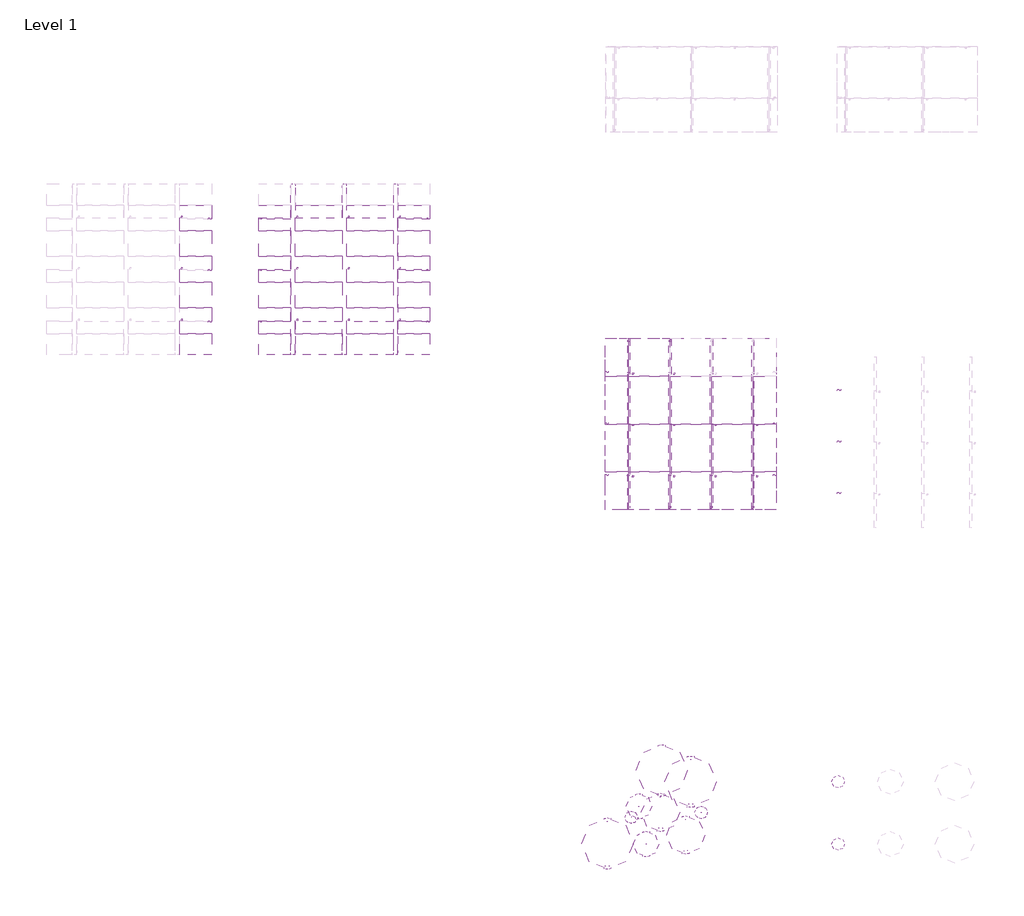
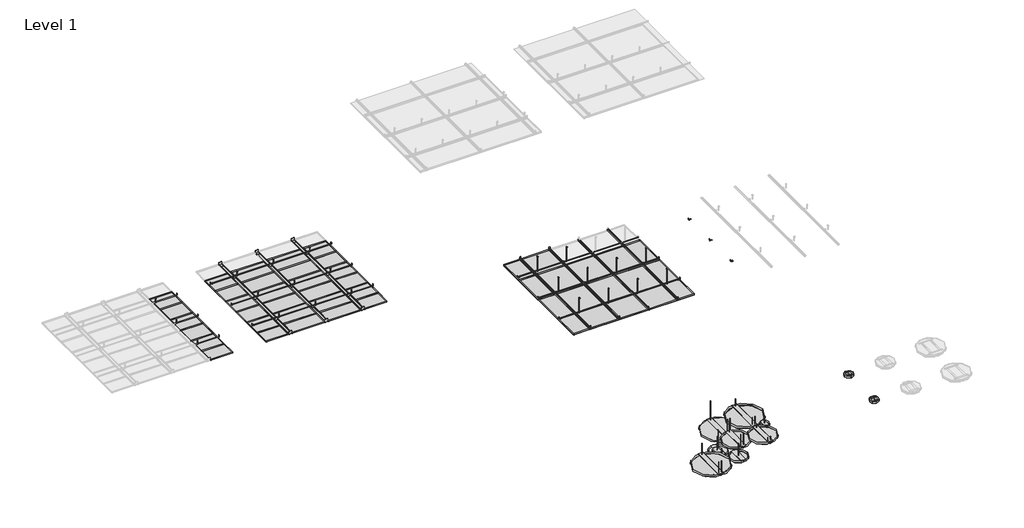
# One storey, part 9 of 32: 135 proxies.
"""IFC4 building model written with IfcOpenShell, lengths in millimetres."""

from ifc_helpers import new_model, si_unit, origin, place, context, project, spatial, transform, mapped, element, save
from components import generic_models_72de8b23, generic_models_cbd92ba2, generic_models_ce491251, generic_models_25fa5e78, generic_models_2a6b3d05, generic_models_c4ad3073, generic_models_f72345d6, generic_models_2887c913, generic_models_7cee0ba5, generic_models_2ff1d041, generic_models_96b5d85b, generic_models_a6ffa8e4, generic_models_93c67618, generic_models_9e18e937, generic_models_28f6a95c, generic_models_9ccf16c1, generic_models_2f172364, generic_models_67140d94, generic_models_d52b243d, generic_models_72923a4e, generic_models_1725dbb2, generic_models_24dc685e, generic_models_a7a96dfa, generic_models_45aca83d, generic_models_f1b6a3ca, generic_models_b58cbed9, generic_models_0fa353ae, generic_models_4925be76, generic_models_743fb40c, generic_models_13996165, generic_models_57b20986, generic_models_edce5612, generic_models_57176d63

model = new_model("IFC4")

# Units and contexts
model_context = context("Model", 3, world=origin())
ifc_project = project(units=[si_unit("LENGTHUNIT", "METRE", prefix="MILLI")], contexts=[model_context])

# Site, building, storey
site = spatial("IfcSite", under=ifc_project)
building = spatial("IfcBuilding", under=site)
storey = spatial("IfcBuildingStorey", under=building, Name="Level 1", Elevation=0.0)

# Proxies
placement = place(None, origin())
generic_models_shape = generic_models_72de8b23(model_context)
element("IfcBuildingElementProxy", 1, Name="durlum_LOOP_TYPE3 : durlum_LOOP_TYPE3", ObjectType="durlum_LOOP_TYPE3 : durlum_LOOP_TYPE3", at=placement, inside=storey, context=model_context, shape_type="MappedRepresentation", body=[
    mapped(generic_models_shape, transform((12154.4096894, -5061.5279399, 1700.0), x_axis=(1.0, 0.0, 0.0), y_axis=(0.0, 1.0, 0.0), z_axis=(0.0, 0.0, 1.0))),
])
generic_models_2_shape = generic_models_cbd92ba2(model_context)
element("IfcBuildingElementProxy", 2, Name="durlum_S5.7KS-BR : durlum_S5.7KS-BR", ObjectType="durlum_S5.7KS-BR : durlum_S5.7KS-BR", at=placement, inside=storey, context=model_context, shape_type="MappedRepresentation", body=[
    mapped(generic_models_2_shape, transform((4063.9252607, -1448.2303881, 1700.0), x_axis=(1.0, 0.0, 0.0), y_axis=(0.0, 1.0, 0.0), z_axis=(0.0, 0.0, 1.0))),
])
generic_models_3_shape = generic_models_ce491251(model_context)
element("IfcBuildingElementProxy", 3, Name="durlum_U1300 : durlum_U1300", ObjectType="durlum_U1300 : durlum_U1300", at=placement, inside=storey, context=model_context, shape_type="MappedRepresentation", body=[
    mapped(generic_models_3_shape, transform((263.9252607, -2648.2303881, 3149.4124682), x_axis=(-1.0, 0.0, 0.0), y_axis=(0.0, -1.0, 0.0), z_axis=(0.0, 0.0, 1.0))),
])
element("IfcBuildingElementProxy", 4, Name="durlum_U1300 : durlum_U1300", ObjectType="durlum_U1300 : durlum_U1300", at=placement, inside=storey, context=model_context, shape_type="MappedRepresentation", body=[
    mapped(generic_models_3_shape, transform((263.9252607, -248.2303881, 3149.4124682), x_axis=(-1.0, 0.0, 0.0), y_axis=(0.0, -1.0, 0.0), z_axis=(0.0, 0.0, 1.0))),
])
element("IfcBuildingElementProxy", 5, Name="durlum_U1300 : durlum_U1300", ObjectType="durlum_U1300 : durlum_U1300", at=placement, inside=storey, context=model_context, shape_type="MappedRepresentation", body=[
    mapped(generic_models_3_shape, transform((263.9252607, -1448.2303881, 3149.4124682), x_axis=(-1.0, 0.0, 0.0), y_axis=(0.0, -1.0, 0.0), z_axis=(0.0, 0.0, 1.0))),
])
element("IfcBuildingElementProxy", 6, Name="durlum_U1300 : durlum_U1300", ObjectType="durlum_U1300 : durlum_U1300", at=placement, inside=storey, context=model_context, shape_type="MappedRepresentation", body=[
    mapped(generic_models_3_shape, transform((2963.9252607, -1448.2303881, 3149.4124682), x_axis=(-1.0, 0.0, 0.0), y_axis=(0.0, -1.0, 0.0), z_axis=(0.0, 0.0, 1.0))),
])
element("IfcBuildingElementProxy", 7, Name="durlum_U1300 : durlum_U1300", ObjectType="durlum_U1300 : durlum_U1300", at=placement, inside=storey, context=model_context, shape_type="MappedRepresentation", body=[
    mapped(generic_models_3_shape, transform((2963.9252607, -2648.2303881, 3149.4124682), x_axis=(-1.0, 0.0, 0.0), y_axis=(0.0, -1.0, 0.0), z_axis=(0.0, 0.0, 1.0))),
])
element("IfcBuildingElementProxy", 8, Name="durlum_U1300 : durlum_U1300", ObjectType="durlum_U1300 : durlum_U1300", at=placement, inside=storey, context=model_context, shape_type="MappedRepresentation", body=[
    mapped(generic_models_3_shape, transform((2963.9252607, -248.2303881, 3149.4124682), x_axis=(-1.0, 0.0, 0.0), y_axis=(0.0, -1.0, 0.0), z_axis=(0.0, 0.0, 1.0))),
])
element("IfcBuildingElementProxy", 9, Name="durlum_U1300 : durlum_U1300", ObjectType="durlum_U1300 : durlum_U1300", at=placement, inside=storey, context=model_context, shape_type="MappedRepresentation", body=[
    mapped(generic_models_3_shape, transform((5363.9252607, -2648.2303881, 3149.4124682), x_axis=(-1.0, 0.0, 0.0), y_axis=(0.0, -1.0, 0.0), z_axis=(0.0, 0.0, 1.0))),
])
element("IfcBuildingElementProxy", 10, Name="durlum_U1300 : durlum_U1300", ObjectType="durlum_U1300 : durlum_U1300", at=placement, inside=storey, context=model_context, shape_type="MappedRepresentation", body=[
    mapped(generic_models_3_shape, transform((4163.9252607, -2648.2303881, 3149.4124682), x_axis=(-1.0, 0.0, 0.0), y_axis=(0.0, -1.0, 0.0), z_axis=(0.0, 0.0, 1.0))),
])
element("IfcBuildingElementProxy", 11, Name="durlum_U1300 : durlum_U1300", ObjectType="durlum_U1300 : durlum_U1300", at=placement, inside=storey, context=model_context, shape_type="MappedRepresentation", body=[
    mapped(generic_models_3_shape, transform((5363.9252607, -248.2303881, 3149.4124682), x_axis=(-1.0, 0.0, 0.0), y_axis=(0.0, -1.0, 0.0), z_axis=(0.0, 0.0, 1.0))),
])
element("IfcBuildingElementProxy", 12, Name="durlum_U1300 : durlum_U1300", ObjectType="durlum_U1300 : durlum_U1300", at=placement, inside=storey, context=model_context, shape_type="MappedRepresentation", body=[
    mapped(generic_models_3_shape, transform((4163.9252607, -248.2303881, 3149.4124682), x_axis=(-1.0, 0.0, 0.0), y_axis=(0.0, -1.0, 0.0), z_axis=(0.0, 0.0, 1.0))),
])
element("IfcBuildingElementProxy", 13, Name="durlum_U1300 : durlum_U1300", ObjectType="durlum_U1300 : durlum_U1300", at=placement, inside=storey, context=model_context, shape_type="MappedRepresentation", body=[
    mapped(generic_models_3_shape, transform((5363.9252607, -1448.2303881, 3149.4124682), x_axis=(-1.0, 0.0, 0.0), y_axis=(0.0, -1.0, 0.0), z_axis=(0.0, 0.0, 1.0))),
])
element("IfcBuildingElementProxy", 14, Name="durlum_U1300 : durlum_U1300", ObjectType="durlum_U1300 : durlum_U1300", at=placement, inside=storey, context=model_context, shape_type="MappedRepresentation", body=[
    mapped(generic_models_3_shape, transform((4163.9252607, -1448.2303881, 3149.4124682), x_axis=(-1.0, 0.0, 0.0), y_axis=(0.0, -1.0, 0.0), z_axis=(0.0, 0.0, 1.0))),
])
generic_models_4_shape = generic_models_25fa5e78(model_context)
element("IfcBuildingElementProxy", 15, Name="durlum_threaded_rod_M6 : durlum_threaded_rod_M6", ObjectType="durlum_threaded_rod_M6 : durlum_threaded_rod_M6", at=placement, inside=storey, context=model_context, shape_type="MappedRepresentation", body=[
    mapped(generic_models_4_shape, transform((10946.3913306, -13987.4247337, 3302.3925231), x_axis=(0.0, -1.0, 0.0), y_axis=(1.0, 0.0, 0.0), z_axis=(0.0, 0.0, 1.0))),
])
generic_models_5_shape = generic_models_2a6b3d05(model_context)
element("IfcBuildingElementProxy", 16, Name="durlum_threaded_rod_M6 : durlum_threaded_rod_M6", ObjectType="durlum_threaded_rod_M6 : durlum_threaded_rod_M6", at=placement, inside=storey, context=model_context, shape_type="MappedRepresentation", body=[
    mapped(generic_models_5_shape, transform((10765.227554, -14243.327903, 3520.8273878), x_axis=(0.0, -1.0, 0.0), y_axis=(1.0, 0.0, 0.0), z_axis=(0.0, 0.0, 1.0))),
])
generic_models_6_shape = generic_models_c4ad3073(model_context)
element("IfcBuildingElementProxy", 17, Name="durlum_threaded_rod_M6 : durlum_threaded_rod_M6", ObjectType="durlum_threaded_rod_M6 : durlum_threaded_rod_M6", at=placement, inside=storey, context=model_context, shape_type="MappedRepresentation", body=[
    mapped(generic_models_6_shape, transform((12398.3018075, -14131.6544888, 3822.694856), x_axis=(0.0, -1.0, 0.0), y_axis=(1.0, 0.0, 0.0), z_axis=(0.0, 0.0, 1.0))),
])
generic_models_7_shape = generic_models_f72345d6(model_context)
element("IfcBuildingElementProxy", 18, Name="durlum_threaded_rod_M6 : durlum_threaded_rod_M6", ObjectType="durlum_threaded_rod_M6 : durlum_threaded_rod_M6", at=placement, inside=storey, context=model_context, shape_type="MappedRepresentation", body=[
    mapped(generic_models_7_shape, transform((11111.9195563, -14870.1795855, 3593.45), x_axis=(0.0, -1.0, 0.0), y_axis=(1.0, 0.0, 0.0), z_axis=(0.0, 0.0, 1.0))),
])
generic_models_8_shape = generic_models_2887c913(model_context)
element("IfcBuildingElementProxy", 19, Name="durlum_threaded_rod_M6 : durlum_threaded_rod_M6", ObjectType="durlum_threaded_rod_M6 : durlum_threaded_rod_M6", at=placement, inside=storey, context=model_context, shape_type="MappedRepresentation", body=[
    mapped(generic_models_8_shape, transform((12037.0108094, -14291.1302382, 3892.1666578), x_axis=(0.0, -1.0, 0.0), y_axis=(1.0, 0.0, 0.0), z_axis=(0.0, 0.0, 1.0))),
])
element("IfcBuildingElementProxy", 20, Name="durlum_threaded_rod_M6 : durlum_threaded_rod_M6", ObjectType="durlum_threaded_rod_M6 : durlum_threaded_rod_M6", at=placement, inside=storey, context=model_context, shape_type="MappedRepresentation", body=[
    mapped(generic_models_8_shape, transform((11992.0108094, -15024.1302382, 3892.1666578), x_axis=(0.0, -1.0, 0.0), y_axis=(1.0, 0.0, 0.0), z_axis=(0.0, 0.0, 1.0))),
])
element("IfcBuildingElementProxy", 21, Name="durlum_threaded_rod_M6 : durlum_threaded_rod_M6", ObjectType="durlum_threaded_rod_M6 : durlum_threaded_rod_M6", at=placement, inside=storey, context=model_context, shape_type="MappedRepresentation", body=[
    mapped(generic_models_8_shape, transform((12082.0108094, -15024.1302382, 3892.1666578), x_axis=(0.0, -1.0, 0.0), y_axis=(1.0, 0.0, 0.0), z_axis=(0.0, 0.0, 1.0))),
])
generic_models_9_shape = generic_models_7cee0ba5(model_context)
element("IfcBuildingElementProxy", 22, Name="durlum_threaded_rod_M6 : durlum_threaded_rod_M6", ObjectType="durlum_threaded_rod_M6 : durlum_threaded_rod_M6", at=placement, inside=storey, context=model_context, shape_type="MappedRepresentation", body=[
    mapped(generic_models_9_shape, transform((11446.0516505, -13765.1544888, 3615.4824958), x_axis=(0.0, -1.0, 0.0), y_axis=(1.0, 0.0, 0.0), z_axis=(0.0, 0.0, 1.0))),
])
element("IfcBuildingElementProxy", 23, Name="durlum_threaded_rod_M6 : durlum_threaded_rod_M6", ObjectType="durlum_threaded_rod_M6 : durlum_threaded_rod_M6", at=placement, inside=storey, context=model_context, shape_type="MappedRepresentation", body=[
    mapped(generic_models_9_shape, transform((11401.0516505, -14498.1544888, 3615.4824958), x_axis=(0.0, -1.0, 0.0), y_axis=(1.0, 0.0, 0.0), z_axis=(0.0, 0.0, 1.0))),
])
element("IfcBuildingElementProxy", 24, Name="durlum_threaded_rod_M6 : durlum_threaded_rod_M6", ObjectType="durlum_threaded_rod_M6 : durlum_threaded_rod_M6", at=placement, inside=storey, context=model_context, shape_type="MappedRepresentation", body=[
    mapped(generic_models_9_shape, transform((11491.0516505, -14498.1544888, 3615.4824958), x_axis=(0.0, -1.0, 0.0), y_axis=(1.0, 0.0, 0.0), z_axis=(0.0, 0.0, 1.0))),
])
element("IfcBuildingElementProxy", 25, Name="durlum_threaded_rod_M6 : durlum_threaded_rod_M6", ObjectType="durlum_threaded_rod_M6 : durlum_threaded_rod_M6", at=placement, inside=storey, context=model_context, shape_type="MappedRepresentation", body=[
    mapped(generic_models_9_shape, transform((10208.5142283, -14336.8603154, 3615.4824958), x_axis=(0.0, -1.0, 0.0), y_axis=(1.0, 0.0, 0.0), z_axis=(0.0, 0.0, 1.0))),
])
element("IfcBuildingElementProxy", 26, Name="durlum_threaded_rod_M6 : durlum_threaded_rod_M6", ObjectType="durlum_threaded_rod_M6 : durlum_threaded_rod_M6", at=placement, inside=storey, context=model_context, shape_type="MappedRepresentation", body=[
    mapped(generic_models_9_shape, transform((10163.5142283, -15376.8603154, 3615.4824958), x_axis=(0.0, -1.0, 0.0), y_axis=(1.0, 0.0, 0.0), z_axis=(0.0, 0.0, 1.0))),
])
element("IfcBuildingElementProxy", 27, Name="durlum_threaded_rod_M6 : durlum_threaded_rod_M6", ObjectType="durlum_threaded_rod_M6 : durlum_threaded_rod_M6", at=placement, inside=storey, context=model_context, shape_type="MappedRepresentation", body=[
    mapped(generic_models_9_shape, transform((10253.5142283, -15376.8603154, 3615.4824958), x_axis=(0.0, -1.0, 0.0), y_axis=(1.0, 0.0, 0.0), z_axis=(0.0, 0.0, 1.0))),
])
generic_models_10_shape = generic_models_2ff1d041(model_context)
element("IfcBuildingElementProxy", 28, Name="durlum_threaded_rod_M6 : durlum_threaded_rod_M6", ObjectType="durlum_threaded_rod_M6 : durlum_threaded_rod_M6", at=placement, inside=storey, context=model_context, shape_type="MappedRepresentation", body=[
    mapped(generic_models_10_shape, transform((12150.4973052, -12892.8865556, 3751.2755524), x_axis=(0.0, -1.0, 0.0), y_axis=(1.0, 0.0, 0.0), z_axis=(0.0, 0.0, 1.0))),
])
element("IfcBuildingElementProxy", 29, Name="durlum_threaded_rod_M6 : durlum_threaded_rod_M6", ObjectType="durlum_threaded_rod_M6 : durlum_threaded_rod_M6", at=placement, inside=storey, context=model_context, shape_type="MappedRepresentation", body=[
    mapped(generic_models_10_shape, transform((12105.4973052, -13932.8865556, 3751.2755524), x_axis=(0.0, -1.0, 0.0), y_axis=(1.0, 0.0, 0.0), z_axis=(0.0, 0.0, 1.0))),
])
element("IfcBuildingElementProxy", 30, Name="durlum_threaded_rod_M6 : durlum_threaded_rod_M6", ObjectType="durlum_threaded_rod_M6 : durlum_threaded_rod_M6", at=placement, inside=storey, context=model_context, shape_type="MappedRepresentation", body=[
    mapped(generic_models_10_shape, transform((12195.4973052, -13932.8865556, 3751.2755524), x_axis=(0.0, -1.0, 0.0), y_axis=(1.0, 0.0, 0.0), z_axis=(0.0, 0.0, 1.0))),
])
generic_models_11_shape = generic_models_96b5d85b(model_context)
element("IfcBuildingElementProxy", 31, Name="durlum_U1300 : durlum_U1300", ObjectType="durlum_U1300 : durlum_U1300", at=placement, inside=storey, context=model_context, shape_type="MappedRepresentation", body=[
    mapped(generic_models_11_shape, transform((10805.4096894, -3861.5279399, 2753.4124682), x_axis=(1.0, 0.0, 0.0), y_axis=(0.0, 1.0, 0.0), z_axis=(0.0, 0.0, 1.0))),
])
element("IfcBuildingElementProxy", 32, Name="durlum_U1300 : durlum_U1300", ObjectType="durlum_U1300 : durlum_U1300", at=placement, inside=storey, context=model_context, shape_type="MappedRepresentation", body=[
    mapped(generic_models_11_shape, transform((11771.4096894, -3861.5279399, 2753.4124682), x_axis=(1.0, 0.0, 0.0), y_axis=(0.0, 1.0, 0.0), z_axis=(0.0, 0.0, 1.0))),
])
element("IfcBuildingElementProxy", 33, Name="durlum_U1300 : durlum_U1300", ObjectType="durlum_U1300 : durlum_U1300", at=placement, inside=storey, context=model_context, shape_type="MappedRepresentation", body=[
    mapped(generic_models_11_shape, transform((10805.4096894, -6261.5279399, 2753.4124682), x_axis=(1.0, 0.0, 0.0), y_axis=(0.0, 1.0, 0.0), z_axis=(0.0, 0.0, 1.0))),
])
element("IfcBuildingElementProxy", 34, Name="durlum_U1300 : durlum_U1300", ObjectType="durlum_U1300 : durlum_U1300", at=placement, inside=storey, context=model_context, shape_type="MappedRepresentation", body=[
    mapped(generic_models_11_shape, transform((13703.4096894, -6261.5279399, 2753.4124682), x_axis=(1.0, 0.0, 0.0), y_axis=(0.0, 1.0, 0.0), z_axis=(0.0, 0.0, 1.0))),
])
element("IfcBuildingElementProxy", 35, Name="durlum_U1300 : durlum_U1300", ObjectType="durlum_U1300 : durlum_U1300", at=placement, inside=storey, context=model_context, shape_type="MappedRepresentation", body=[
    mapped(generic_models_11_shape, transform((11771.4096894, -6261.5279399, 2753.4124682), x_axis=(1.0, 0.0, 0.0), y_axis=(0.0, 1.0, 0.0), z_axis=(0.0, 0.0, 1.0))),
])
element("IfcBuildingElementProxy", 36, Name="durlum_U1300 : durlum_U1300", ObjectType="durlum_U1300 : durlum_U1300", at=placement, inside=storey, context=model_context, shape_type="MappedRepresentation", body=[
    mapped(generic_models_11_shape, transform((12737.4096894, -6261.5279399, 2753.4124682), x_axis=(1.0, 0.0, 0.0), y_axis=(0.0, 1.0, 0.0), z_axis=(0.0, 0.0, 1.0))),
])
element("IfcBuildingElementProxy", 37, Name="durlum_U1300 : durlum_U1300", ObjectType="durlum_U1300 : durlum_U1300", at=placement, inside=storey, context=model_context, shape_type="MappedRepresentation", body=[
    mapped(generic_models_11_shape, transform((10805.4096894, -5061.5279399, 2753.4124682), x_axis=(1.0, 0.0, 0.0), y_axis=(0.0, 1.0, 0.0), z_axis=(0.0, 0.0, 1.0))),
])
element("IfcBuildingElementProxy", 38, Name="durlum_U1300 : durlum_U1300", ObjectType="durlum_U1300 : durlum_U1300", at=placement, inside=storey, context=model_context, shape_type="MappedRepresentation", body=[
    mapped(generic_models_11_shape, transform((13703.4096894, -5061.5279399, 2753.4124682), x_axis=(1.0, 0.0, 0.0), y_axis=(0.0, 1.0, 0.0), z_axis=(0.0, 0.0, 1.0))),
])
element("IfcBuildingElementProxy", 39, Name="durlum_U1300 : durlum_U1300", ObjectType="durlum_U1300 : durlum_U1300", at=placement, inside=storey, context=model_context, shape_type="MappedRepresentation", body=[
    mapped(generic_models_11_shape, transform((11771.4096894, -5061.5279399, 2753.4124682), x_axis=(1.0, 0.0, 0.0), y_axis=(0.0, 1.0, 0.0), z_axis=(0.0, 0.0, 1.0))),
])
element("IfcBuildingElementProxy", 40, Name="durlum_U1300 : durlum_U1300", ObjectType="durlum_U1300 : durlum_U1300", at=placement, inside=storey, context=model_context, shape_type="MappedRepresentation", body=[
    mapped(generic_models_11_shape, transform((12737.4096894, -5061.5279399, 2753.4124682), x_axis=(1.0, 0.0, 0.0), y_axis=(0.0, 1.0, 0.0), z_axis=(0.0, 0.0, 1.0))),
])
generic_models_12_shape = generic_models_a6ffa8e4(model_context)
element("IfcBuildingElementProxy", 41, Name="durlum_TOMEO-R-active : durlum_TOMEO-R-ACTIVE 300", ObjectType="durlum_TOMEO-R-active : durlum_TOMEO-R-ACTIVE 300", at=placement, inside=storey, context=model_context, shape_type="MappedRepresentation", body=[
    mapped(generic_models_12_shape, transform((15596.8016008, -13412.8865556, 3940.0), x_axis=(1.0, 0.0, 0.0), y_axis=(0.0, 1.0, 0.0), z_axis=(0.0, 0.0, 1.0))),
])
generic_models_13_shape = generic_models_93c67618(model_context)
element("IfcBuildingElementProxy", 42, Name="durlum_TOMEO-R-active : durlum_TOMEO-R-ACTIVE 300", ObjectType="durlum_TOMEO-R-active : durlum_TOMEO-R-ACTIVE 300", at=placement, inside=storey, context=model_context, shape_type="MappedRepresentation", body=[
    mapped(generic_models_13_shape, transform((15596.8016008, -14870.1795855, 3940.0), x_axis=(1.0, 0.0, 0.0), y_axis=(0.0, 1.0, 0.0), z_axis=(0.0, 0.0, 1.0))),
])
generic_models_14_shape = generic_models_9e18e937(model_context)
element("IfcBuildingElementProxy", 43, Name="durlum_U1042 : durlum_U1042", ObjectType="durlum_U1042 : durlum_U1042", at=placement, inside=storey, context=model_context, shape_type="MappedRepresentation", body=[
    mapped(generic_models_14_shape, transform((11671.4096894, -3061.5279399, 3475.0), x_axis=(1.0, 0.0, 0.0), y_axis=(0.0, 1.0, 0.0), z_axis=(0.0, 0.0, 1.0))),
])
element("IfcBuildingElementProxy", 44, Name="durlum_U1042 : durlum_U1042", ObjectType="durlum_U1042 : durlum_U1042", at=placement, inside=storey, context=model_context, shape_type="MappedRepresentation", body=[
    mapped(generic_models_14_shape, transform((11671.4096894, -7061.5279399, 3475.0), x_axis=(-1.0, 0.0, 0.0), y_axis=(0.0, -1.0, 0.0), z_axis=(0.0, 0.0, 1.0))),
])
element("IfcBuildingElementProxy", 45, Name="durlum_U1042 : durlum_U1042", ObjectType="durlum_U1042 : durlum_U1042", at=placement, inside=storey, context=model_context, shape_type="MappedRepresentation", body=[
    mapped(generic_models_14_shape, transform((12637.4096894, -7061.5279399, 3475.0), x_axis=(-1.0, 0.0, 0.0), y_axis=(0.0, -1.0, 0.0), z_axis=(0.0, 0.0, 1.0))),
])
element("IfcBuildingElementProxy", 46, Name="durlum_U1042 : durlum_U1042", ObjectType="durlum_U1042 : durlum_U1042", at=placement, inside=storey, context=model_context, shape_type="MappedRepresentation", body=[
    mapped(generic_models_14_shape, transform((10705.4096894, -7061.5279399, 3475.0), x_axis=(-1.0, 0.0, 0.0), y_axis=(0.0, -1.0, 0.0), z_axis=(0.0, 0.0, 1.0))),
])
element("IfcBuildingElementProxy", 47, Name="durlum_U1042 : durlum_U1042", ObjectType="durlum_U1042 : durlum_U1042", at=placement, inside=storey, context=model_context, shape_type="MappedRepresentation", body=[
    mapped(generic_models_14_shape, transform((10705.4096894, -3061.5279399, 3475.0), x_axis=(1.0, 0.0, 0.0), y_axis=(0.0, 1.0, 0.0), z_axis=(0.0, 0.0, 1.0))),
])
element("IfcBuildingElementProxy", 48, Name="durlum_U1042 : durlum_U1042", ObjectType="durlum_U1042 : durlum_U1042", at=placement, inside=storey, context=model_context, shape_type="MappedRepresentation", body=[
    mapped(generic_models_14_shape, transform((13603.4096894, -7061.5279399, 3475.0), x_axis=(-1.0, 0.0, 0.0), y_axis=(0.0, -1.0, 0.0), z_axis=(0.0, 0.0, 1.0))),
])
generic_models_15_shape = generic_models_28f6a95c(model_context)
element("IfcBuildingElementProxy", 49, Name="durlum_U1042 : durlum_U1042", ObjectType="durlum_U1042 : durlum_U1042", at=placement, inside=storey, context=model_context, shape_type="MappedRepresentation", body=[
    mapped(generic_models_15_shape, transform((2063.9252607, -263.2303881, 3906.0), x_axis=(0.0, -1.0, 0.0), y_axis=(1.0, 0.0, 0.0), z_axis=(0.0, 0.0, 1.0))),
])
element("IfcBuildingElementProxy", 50, Name="durlum_U1042 : durlum_U1042", ObjectType="durlum_U1042 : durlum_U1042", at=placement, inside=storey, context=model_context, shape_type="MappedRepresentation", body=[
    mapped(generic_models_15_shape, transform((2063.9252607, -1463.2303881, 3906.0), x_axis=(0.0, -1.0, 0.0), y_axis=(1.0, 0.0, 0.0), z_axis=(0.0, 0.0, 1.0))),
])
element("IfcBuildingElementProxy", 51, Name="durlum_U1042 : durlum_U1042", ObjectType="durlum_U1042 : durlum_U1042", at=placement, inside=storey, context=model_context, shape_type="MappedRepresentation", body=[
    mapped(generic_models_15_shape, transform((2063.9252607, -2663.2303881, 3906.0), x_axis=(0.0, -1.0, 0.0), y_axis=(1.0, 0.0, 0.0), z_axis=(0.0, 0.0, 1.0))),
])
element("IfcBuildingElementProxy", 52, Name="durlum_U1042 : durlum_U1042", ObjectType="durlum_U1042 : durlum_U1042", at=placement, inside=storey, context=model_context, shape_type="MappedRepresentation", body=[
    mapped(generic_models_15_shape, transform((10154.4096894, -5047.5279399, 3473.0), x_axis=(0.0, -1.0, 0.0), y_axis=(1.0, 0.0, 0.0), z_axis=(0.0, 0.0, 1.0))),
])
element("IfcBuildingElementProxy", 53, Name="durlum_U1042 : durlum_U1042", ObjectType="durlum_U1042 : durlum_U1042", at=placement, inside=storey, context=model_context, shape_type="MappedRepresentation", body=[
    mapped(generic_models_15_shape, transform((10154.4096894, -3847.5279399, 3473.0), x_axis=(0.0, -1.0, 0.0), y_axis=(1.0, 0.0, 0.0), z_axis=(0.0, 0.0, 1.0))),
])
element("IfcBuildingElementProxy", 54, Name="durlum_U1042 : durlum_U1042", ObjectType="durlum_U1042 : durlum_U1042", at=placement, inside=storey, context=model_context, shape_type="MappedRepresentation", body=[
    mapped(generic_models_15_shape, transform((10154.4096894, -6247.5279399, 3473.0), x_axis=(0.0, -1.0, 0.0), y_axis=(1.0, 0.0, 0.0), z_axis=(0.0, 0.0, 1.0))),
])
element("IfcBuildingElementProxy", 55, Name="durlum_U1042 : durlum_U1042", ObjectType="durlum_U1042 : durlum_U1042", at=placement, inside=storey, context=model_context, shape_type="MappedRepresentation", body=[
    mapped(generic_models_15_shape, transform((15574.6837261, -5470.0841723, 3850.0), x_axis=(0.0, -1.0, 0.0), y_axis=(1.0, 0.0, 0.0), z_axis=(0.0, 0.0, 1.0))),
])
element("IfcBuildingElementProxy", 56, Name="durlum_U1042 : durlum_U1042", ObjectType="durlum_U1042 : durlum_U1042", at=placement, inside=storey, context=model_context, shape_type="MappedRepresentation", body=[
    mapped(generic_models_15_shape, transform((15574.6837261, -4270.0841723, 3850.0), x_axis=(0.0, -1.0, 0.0), y_axis=(1.0, 0.0, 0.0), z_axis=(0.0, 0.0, 1.0))),
])
element("IfcBuildingElementProxy", 57, Name="durlum_U1042 : durlum_U1042", ObjectType="durlum_U1042 : durlum_U1042", at=placement, inside=storey, context=model_context, shape_type="MappedRepresentation", body=[
    mapped(generic_models_15_shape, transform((15574.6837261, -6670.0841723, 3850.0), x_axis=(0.0, -1.0, 0.0), y_axis=(1.0, 0.0, 0.0), z_axis=(0.0, 0.0, 1.0))),
])
element("IfcBuildingElementProxy", 58, Name="durlum_U1042 : durlum_U1042", ObjectType="durlum_U1042 : durlum_U1042", at=placement, inside=storey, context=model_context, shape_type="MappedRepresentation", body=[
    mapped(generic_models_14_shape, transform((963.9252607, -263.2303881, 3906.0), x_axis=(0.0, -1.0, 0.0), y_axis=(1.0, 0.0, 0.0), z_axis=(0.0, 0.0, 1.0))),
])
element("IfcBuildingElementProxy", 59, Name="durlum_U1042 : durlum_U1042", ObjectType="durlum_U1042 : durlum_U1042", at=placement, inside=storey, context=model_context, shape_type="MappedRepresentation", body=[
    mapped(generic_models_14_shape, transform((963.9252607, -1463.2303881, 3906.0), x_axis=(0.0, -1.0, 0.0), y_axis=(1.0, 0.0, 0.0), z_axis=(0.0, 0.0, 1.0))),
])
element("IfcBuildingElementProxy", 60, Name="durlum_U1042 : durlum_U1042", ObjectType="durlum_U1042 : durlum_U1042", at=placement, inside=storey, context=model_context, shape_type="MappedRepresentation", body=[
    mapped(generic_models_14_shape, transform((963.9252607, -2663.2303881, 3906.0), x_axis=(0.0, -1.0, 0.0), y_axis=(1.0, 0.0, 0.0), z_axis=(0.0, 0.0, 1.0))),
])
element("IfcBuildingElementProxy", 61, Name="durlum_U1042 : durlum_U1042", ObjectType="durlum_U1042 : durlum_U1042", at=placement, inside=storey, context=model_context, shape_type="MappedRepresentation", body=[
    mapped(generic_models_14_shape, transform((6063.9252607, -263.2303881, 3906.0), x_axis=(0.0, -1.0, 0.0), y_axis=(1.0, 0.0, 0.0), z_axis=(0.0, 0.0, 1.0))),
])
element("IfcBuildingElementProxy", 62, Name="durlum_U1042 : durlum_U1042", ObjectType="durlum_U1042 : durlum_U1042", at=placement, inside=storey, context=model_context, shape_type="MappedRepresentation", body=[
    mapped(generic_models_14_shape, transform((6063.9252607, -1463.2303881, 3906.0), x_axis=(0.0, -1.0, 0.0), y_axis=(1.0, 0.0, 0.0), z_axis=(0.0, 0.0, 1.0))),
])
element("IfcBuildingElementProxy", 63, Name="durlum_U1042 : durlum_U1042", ObjectType="durlum_U1042 : durlum_U1042", at=placement, inside=storey, context=model_context, shape_type="MappedRepresentation", body=[
    mapped(generic_models_14_shape, transform((6063.9252607, -2663.2303881, 3906.0), x_axis=(0.0, -1.0, 0.0), y_axis=(1.0, 0.0, 0.0), z_axis=(0.0, 0.0, 1.0))),
])
element("IfcBuildingElementProxy", 64, Name="durlum_U1042 : durlum_U1042", ObjectType="durlum_U1042 : durlum_U1042", at=placement, inside=storey, context=model_context, shape_type="MappedRepresentation", body=[
    mapped(generic_models_14_shape, transform((14154.4096894, -5047.5279399, 3473.0), x_axis=(0.0, -1.0, 0.0), y_axis=(1.0, 0.0, 0.0), z_axis=(0.0, 0.0, 1.0))),
])
element("IfcBuildingElementProxy", 65, Name="durlum_U1042 : durlum_U1042", ObjectType="durlum_U1042 : durlum_U1042", at=placement, inside=storey, context=model_context, shape_type="MappedRepresentation", body=[
    mapped(generic_models_14_shape, transform((14154.4096894, -6247.5279399, 3473.0), x_axis=(0.0, -1.0, 0.0), y_axis=(1.0, 0.0, 0.0), z_axis=(0.0, 0.0, 1.0))),
])
generic_models_16_shape = generic_models_9ccf16c1(model_context)
element("IfcBuildingElementProxy", 66, Name="durlum_U1093V : durlum_U1093V", ObjectType="durlum_U1093V : durlum_U1093V", at=placement, inside=storey, context=model_context, shape_type="MappedRepresentation", body=[
    mapped(generic_models_16_shape, transform((11671.4096894, -3863.0279399, 3465.0), x_axis=(-1.0, 0.0, 0.0), y_axis=(0.0, -1.0, 0.0), z_axis=(0.0, 0.0, 1.0))),
])
element("IfcBuildingElementProxy", 67, Name="durlum_U1093V : durlum_U1093V", ObjectType="durlum_U1093V : durlum_U1093V", at=placement, inside=storey, context=model_context, shape_type="MappedRepresentation", body=[
    mapped(generic_models_16_shape, transform((11671.4096894, -6263.0279399, 3465.0), x_axis=(-1.0, 0.0, 0.0), y_axis=(0.0, -1.0, 0.0), z_axis=(0.0, 0.0, 1.0))),
])
element("IfcBuildingElementProxy", 68, Name="durlum_U1093V : durlum_U1093V", ObjectType="durlum_U1093V : durlum_U1093V", at=placement, inside=storey, context=model_context, shape_type="MappedRepresentation", body=[
    mapped(generic_models_16_shape, transform((11671.4096894, -5063.0279399, 3465.0), x_axis=(-1.0, 0.0, 0.0), y_axis=(0.0, -1.0, 0.0), z_axis=(0.0, 0.0, 1.0))),
])
element("IfcBuildingElementProxy", 69, Name="durlum_U1093V : durlum_U1093V", ObjectType="durlum_U1093V : durlum_U1093V", at=placement, inside=storey, context=model_context, shape_type="MappedRepresentation", body=[
    mapped(generic_models_16_shape, transform((13603.4096894, -5063.0279399, 3465.0), x_axis=(-1.0, 0.0, 0.0), y_axis=(0.0, -1.0, 0.0), z_axis=(0.0, 0.0, 1.0))),
])
element("IfcBuildingElementProxy", 70, Name="durlum_U1093V : durlum_U1093V", ObjectType="durlum_U1093V : durlum_U1093V", at=placement, inside=storey, context=model_context, shape_type="MappedRepresentation", body=[
    mapped(generic_models_16_shape, transform((10705.4096894, -5063.0279399, 3465.0), x_axis=(-1.0, 0.0, 0.0), y_axis=(0.0, -1.0, 0.0), z_axis=(0.0, 0.0, 1.0))),
])
element("IfcBuildingElementProxy", 71, Name="durlum_U1093V : durlum_U1093V", ObjectType="durlum_U1093V : durlum_U1093V", at=placement, inside=storey, context=model_context, shape_type="MappedRepresentation", body=[
    mapped(generic_models_16_shape, transform((12637.4096894, -5063.0279399, 3465.0), x_axis=(-1.0, 0.0, 0.0), y_axis=(0.0, -1.0, 0.0), z_axis=(0.0, 0.0, 1.0))),
])
element("IfcBuildingElementProxy", 72, Name="durlum_U1093V : durlum_U1093V", ObjectType="durlum_U1093V : durlum_U1093V", at=placement, inside=storey, context=model_context, shape_type="MappedRepresentation", body=[
    mapped(generic_models_16_shape, transform((10705.4096894, -3863.0279399, 3465.0), x_axis=(-1.0, 0.0, 0.0), y_axis=(0.0, -1.0, 0.0), z_axis=(0.0, 0.0, 1.0))),
])
element("IfcBuildingElementProxy", 73, Name="durlum_U1093V : durlum_U1093V", ObjectType="durlum_U1093V : durlum_U1093V", at=placement, inside=storey, context=model_context, shape_type="MappedRepresentation", body=[
    mapped(generic_models_16_shape, transform((13603.4096894, -6263.0279399, 3465.0), x_axis=(-1.0, 0.0, 0.0), y_axis=(0.0, -1.0, 0.0), z_axis=(0.0, 0.0, 1.0))),
])
element("IfcBuildingElementProxy", 74, Name="durlum_U1093V : durlum_U1093V", ObjectType="durlum_U1093V : durlum_U1093V", at=placement, inside=storey, context=model_context, shape_type="MappedRepresentation", body=[
    mapped(generic_models_16_shape, transform((10705.4096894, -6263.0279399, 3465.0), x_axis=(-1.0, 0.0, 0.0), y_axis=(0.0, -1.0, 0.0), z_axis=(0.0, 0.0, 1.0))),
])
element("IfcBuildingElementProxy", 75, Name="durlum_U1093V : durlum_U1093V", ObjectType="durlum_U1093V : durlum_U1093V", at=placement, inside=storey, context=model_context, shape_type="MappedRepresentation", body=[
    mapped(generic_models_16_shape, transform((12637.4096894, -6263.0279399, 3465.0), x_axis=(-1.0, 0.0, 0.0), y_axis=(0.0, -1.0, 0.0), z_axis=(0.0, 0.0, 1.0))),
])
generic_models_17_shape = generic_models_2f172364(model_context)
element("IfcBuildingElementProxy", 76, Name="durlum_S5-100_panel : durlum_S5-100_panel_wall_width_cut", ObjectType="durlum_S5-100_panel : durlum_S5-100_panel_wall_width_cut", at=placement, inside=storey, context=model_context, shape_type="MappedRepresentation", body=[
    mapped(generic_models_17_shape, transform((4663.9252607, -3198.2303881, 3800.0), x_axis=(1.0, 0.0, 0.0), y_axis=(0.0, 1.0, 0.0), z_axis=(0.0, 0.0, 1.0))),
])
element("IfcBuildingElementProxy", 77, Name="durlum_S5-100_panel : durlum_S5-100_panel_wall_width_cut", ObjectType="durlum_S5-100_panel : durlum_S5-100_panel_wall_width_cut", at=placement, inside=storey, context=model_context, shape_type="MappedRepresentation", body=[
    mapped(generic_models_17_shape, transform((3463.9252607, -3198.2303881, 3800.0), x_axis=(1.0, 0.0, 0.0), y_axis=(0.0, 1.0, 0.0), z_axis=(0.0, 0.0, 1.0))),
])
generic_models_18_shape = generic_models_67140d94(model_context)
element("IfcBuildingElementProxy", 78, Name="durlum_S5-100_panel : durlum_S5-100_panel", ObjectType="durlum_S5-100_panel : durlum_S5-100_panel", at=placement, inside=storey, context=model_context, shape_type="MappedRepresentation", body=[
    mapped(generic_models_18_shape, transform((3463.9252607, -1448.2303881, 3800.0), x_axis=(1.0, 0.0, 0.0), y_axis=(0.0, 1.0, 0.0), z_axis=(0.0, 0.0, 1.0))),
])
element("IfcBuildingElementProxy", 79, Name="durlum_S5-100_panel : durlum_S5-100_panel", ObjectType="durlum_S5-100_panel : durlum_S5-100_panel", at=placement, inside=storey, context=model_context, shape_type="MappedRepresentation", body=[
    mapped(generic_models_18_shape, transform((4663.9252607, -1448.2303881, 3800.0), x_axis=(1.0, 0.0, 0.0), y_axis=(0.0, 1.0, 0.0), z_axis=(0.0, 0.0, 1.0))),
])
element("IfcBuildingElementProxy", 80, Name="durlum_S5-100_panel : durlum_S5-100_panel", ObjectType="durlum_S5-100_panel : durlum_S5-100_panel", at=placement, inside=storey, context=model_context, shape_type="MappedRepresentation", body=[
    mapped(generic_models_18_shape, transform((3463.9252607, -848.2303881, 3800.0), x_axis=(1.0, 0.0, 0.0), y_axis=(0.0, 1.0, 0.0), z_axis=(0.0, 0.0, 1.0))),
])
element("IfcBuildingElementProxy", 81, Name="durlum_S5-100_panel : durlum_S5-100_panel", ObjectType="durlum_S5-100_panel : durlum_S5-100_panel", at=placement, inside=storey, context=model_context, shape_type="MappedRepresentation", body=[
    mapped(generic_models_18_shape, transform((4663.9252607, -848.2303881, 3800.0), x_axis=(1.0, 0.0, 0.0), y_axis=(0.0, 1.0, 0.0), z_axis=(0.0, 0.0, 1.0))),
])
element("IfcBuildingElementProxy", 82, Name="durlum_S5-100_panel : durlum_S5-100_panel", ObjectType="durlum_S5-100_panel : durlum_S5-100_panel", at=placement, inside=storey, context=model_context, shape_type="MappedRepresentation", body=[
    mapped(generic_models_18_shape, transform((3463.9252607, -2648.2303881, 3800.0), x_axis=(1.0, 0.0, 0.0), y_axis=(0.0, 1.0, 0.0), z_axis=(0.0, 0.0, 1.0))),
])
element("IfcBuildingElementProxy", 83, Name="durlum_S5-100_panel : durlum_S5-100_panel", ObjectType="durlum_S5-100_panel : durlum_S5-100_panel", at=placement, inside=storey, context=model_context, shape_type="MappedRepresentation", body=[
    mapped(generic_models_18_shape, transform((4663.9252607, -2648.2303881, 3800.0), x_axis=(1.0, 0.0, 0.0), y_axis=(0.0, 1.0, 0.0), z_axis=(0.0, 0.0, 1.0))),
])
element("IfcBuildingElementProxy", 84, Name="durlum_S5-100_panel : durlum_S5-100_panel", ObjectType="durlum_S5-100_panel : durlum_S5-100_panel", at=placement, inside=storey, context=model_context, shape_type="MappedRepresentation", body=[
    mapped(generic_models_18_shape, transform((3463.9252607, -248.2303881, 3800.0), x_axis=(1.0, 0.0, 0.0), y_axis=(0.0, 1.0, 0.0), z_axis=(0.0, 0.0, 1.0))),
])
element("IfcBuildingElementProxy", 85, Name="durlum_S5-100_panel : durlum_S5-100_panel", ObjectType="durlum_S5-100_panel : durlum_S5-100_panel", at=placement, inside=storey, context=model_context, shape_type="MappedRepresentation", body=[
    mapped(generic_models_18_shape, transform((4663.9252607, -248.2303881, 3800.0), x_axis=(1.0, 0.0, 0.0), y_axis=(0.0, 1.0, 0.0), z_axis=(0.0, 0.0, 1.0))),
])
element("IfcBuildingElementProxy", 86, Name="durlum_S5-100_panel : durlum_S5-100_panel", ObjectType="durlum_S5-100_panel : durlum_S5-100_panel", at=placement, inside=storey, context=model_context, shape_type="MappedRepresentation", body=[
    mapped(generic_models_18_shape, transform((3463.9252607, -2048.2303881, 3800.0), x_axis=(1.0, 0.0, 0.0), y_axis=(0.0, 1.0, 0.0), z_axis=(0.0, 0.0, 1.0))),
])
element("IfcBuildingElementProxy", 87, Name="durlum_S5-100_panel : durlum_S5-100_panel", ObjectType="durlum_S5-100_panel : durlum_S5-100_panel", at=placement, inside=storey, context=model_context, shape_type="MappedRepresentation", body=[
    mapped(generic_models_18_shape, transform((4663.9252607, -2048.2303881, 3800.0), x_axis=(1.0, 0.0, 0.0), y_axis=(0.0, 1.0, 0.0), z_axis=(0.0, 0.0, 1.0))),
])
generic_models_19_shape = generic_models_d52b243d(model_context)
element("IfcBuildingElementProxy", 88, Name="durlum_S5-100_panel : durlum_S5-100_panel_wall_length_cut", ObjectType="durlum_S5-100_panel : durlum_S5-100_panel_wall_length_cut", at=placement, inside=storey, context=model_context, shape_type="MappedRepresentation", body=[
    mapped(generic_models_19_shape, transform((2437.4252607, -2048.2303881, 3800.0), x_axis=(1.0, 0.0, 0.0), y_axis=(0.0, 1.0, 0.0), z_axis=(0.0, 0.0, 1.0))),
])
element("IfcBuildingElementProxy", 89, Name="durlum_S5-100_panel : durlum_S5-100_panel_wall_length_cut", ObjectType="durlum_S5-100_panel : durlum_S5-100_panel_wall_length_cut", at=placement, inside=storey, context=model_context, shape_type="MappedRepresentation", body=[
    mapped(generic_models_19_shape, transform((5690.4252607, -2048.2303881, 3800.0), x_axis=(1.0, 0.0, 0.0), y_axis=(0.0, 1.0, 0.0), z_axis=(0.0, 0.0, 1.0))),
])
element("IfcBuildingElementProxy", 90, Name="durlum_S5-100_panel : durlum_S5-100_panel_wall_length_cut", ObjectType="durlum_S5-100_panel : durlum_S5-100_panel_wall_length_cut", at=placement, inside=storey, context=model_context, shape_type="MappedRepresentation", body=[
    mapped(generic_models_19_shape, transform((2437.4252607, -1448.2303881, 3800.0), x_axis=(1.0, 0.0, 0.0), y_axis=(0.0, 1.0, 0.0), z_axis=(0.0, 0.0, 1.0))),
])
element("IfcBuildingElementProxy", 91, Name="durlum_S5-100_panel : durlum_S5-100_panel_wall_length_cut", ObjectType="durlum_S5-100_panel : durlum_S5-100_panel_wall_length_cut", at=placement, inside=storey, context=model_context, shape_type="MappedRepresentation", body=[
    mapped(generic_models_19_shape, transform((5690.4252607, -1448.2303881, 3800.0), x_axis=(1.0, 0.0, 0.0), y_axis=(0.0, 1.0, 0.0), z_axis=(0.0, 0.0, 1.0))),
])
element("IfcBuildingElementProxy", 92, Name="durlum_S5-100_panel : durlum_S5-100_panel_wall_length_cut", ObjectType="durlum_S5-100_panel : durlum_S5-100_panel_wall_length_cut", at=placement, inside=storey, context=model_context, shape_type="MappedRepresentation", body=[
    mapped(generic_models_19_shape, transform((2437.4252607, -848.2303881, 3800.0), x_axis=(1.0, 0.0, 0.0), y_axis=(0.0, 1.0, 0.0), z_axis=(0.0, 0.0, 1.0))),
])
element("IfcBuildingElementProxy", 93, Name="durlum_S5-100_panel : durlum_S5-100_panel_wall_length_cut", ObjectType="durlum_S5-100_panel : durlum_S5-100_panel_wall_length_cut", at=placement, inside=storey, context=model_context, shape_type="MappedRepresentation", body=[
    mapped(generic_models_19_shape, transform((5690.4252607, -848.2303881, 3800.0), x_axis=(1.0, 0.0, 0.0), y_axis=(0.0, 1.0, 0.0), z_axis=(0.0, 0.0, 1.0))),
])
element("IfcBuildingElementProxy", 94, Name="durlum_S5-100_panel : durlum_S5-100_panel_wall_length_cut", ObjectType="durlum_S5-100_panel : durlum_S5-100_panel_wall_length_cut", at=placement, inside=storey, context=model_context, shape_type="MappedRepresentation", body=[
    mapped(generic_models_19_shape, transform((2437.4252607, -2648.2303881, 3800.0), x_axis=(1.0, 0.0, 0.0), y_axis=(0.0, 1.0, 0.0), z_axis=(0.0, 0.0, 1.0))),
])
element("IfcBuildingElementProxy", 95, Name="durlum_S5-100_panel : durlum_S5-100_panel_wall_length_cut", ObjectType="durlum_S5-100_panel : durlum_S5-100_panel_wall_length_cut", at=placement, inside=storey, context=model_context, shape_type="MappedRepresentation", body=[
    mapped(generic_models_19_shape, transform((5690.4252607, -2648.2303881, 3800.0), x_axis=(1.0, 0.0, 0.0), y_axis=(0.0, 1.0, 0.0), z_axis=(0.0, 0.0, 1.0))),
])
element("IfcBuildingElementProxy", 96, Name="durlum_S5-100_panel : durlum_S5-100_panel_wall_length_cut", ObjectType="durlum_S5-100_panel : durlum_S5-100_panel_wall_length_cut", at=placement, inside=storey, context=model_context, shape_type="MappedRepresentation", body=[
    mapped(generic_models_19_shape, transform((5690.4252607, -248.2303881, 3800.0), x_axis=(1.0, 0.0, 0.0), y_axis=(0.0, 1.0, 0.0), z_axis=(0.0, 0.0, 1.0))),
])
element("IfcBuildingElementProxy", 97, Name="durlum_S5-100_panel : durlum_S5-100_panel_wall_length_cut", ObjectType="durlum_S5-100_panel : durlum_S5-100_panel_wall_length_cut", at=placement, inside=storey, context=model_context, shape_type="MappedRepresentation", body=[
    mapped(generic_models_19_shape, transform((2437.4252607, -248.2303881, 3800.0), x_axis=(1.0, 0.0, 0.0), y_axis=(0.0, 1.0, 0.0), z_axis=(0.0, 0.0, 1.0))),
])
element("IfcBuildingElementProxy", 98, Name="durlum_S5-100_panel : durlum_S5-100_panel_wall_length_cut", ObjectType="durlum_S5-100_panel : durlum_S5-100_panel_wall_length_cut", at=placement, inside=storey, context=model_context, shape_type="MappedRepresentation", body=[
    mapped(generic_models_19_shape, transform((590.4252607, -2048.2303881, 3800.0), x_axis=(1.0, 0.0, 0.0), y_axis=(0.0, 1.0, 0.0), z_axis=(0.0, 0.0, 1.0))),
])
element("IfcBuildingElementProxy", 99, Name="durlum_S5-100_panel : durlum_S5-100_panel_wall_length_cut", ObjectType="durlum_S5-100_panel : durlum_S5-100_panel_wall_length_cut", at=placement, inside=storey, context=model_context, shape_type="MappedRepresentation", body=[
    mapped(generic_models_19_shape, transform((590.4252607, -1448.2303881, 3800.0), x_axis=(1.0, 0.0, 0.0), y_axis=(0.0, 1.0, 0.0), z_axis=(0.0, 0.0, 1.0))),
])
element("IfcBuildingElementProxy", 100, Name="durlum_S5-100_panel : durlum_S5-100_panel_wall_length_cut", ObjectType="durlum_S5-100_panel : durlum_S5-100_panel_wall_length_cut", at=placement, inside=storey, context=model_context, shape_type="MappedRepresentation", body=[
    mapped(generic_models_19_shape, transform((590.4252607, -848.2303881, 3800.0), x_axis=(1.0, 0.0, 0.0), y_axis=(0.0, 1.0, 0.0), z_axis=(0.0, 0.0, 1.0))),
])
element("IfcBuildingElementProxy", 101, Name="durlum_S5-100_panel : durlum_S5-100_panel_wall_length_cut", ObjectType="durlum_S5-100_panel : durlum_S5-100_panel_wall_length_cut", at=placement, inside=storey, context=model_context, shape_type="MappedRepresentation", body=[
    mapped(generic_models_19_shape, transform((590.4252607, -2648.2303881, 3800.0), x_axis=(1.0, 0.0, 0.0), y_axis=(0.0, 1.0, 0.0), z_axis=(0.0, 0.0, 1.0))),
])
element("IfcBuildingElementProxy", 102, Name="durlum_S5-100_panel : durlum_S5-100_panel_wall_length_cut", ObjectType="durlum_S5-100_panel : durlum_S5-100_panel_wall_length_cut", at=placement, inside=storey, context=model_context, shape_type="MappedRepresentation", body=[
    mapped(generic_models_19_shape, transform((590.4252607, -248.2303881, 3800.0), x_axis=(1.0, 0.0, 0.0), y_axis=(0.0, 1.0, 0.0), z_axis=(0.0, 0.0, 1.0))),
])
generic_models_20_shape = generic_models_72923a4e(model_context)
element("IfcBuildingElementProxy", 103, Name="durlum_S5-100_panel : durlum_S5-100_panel_wall_corner", ObjectType="durlum_S5-100_panel : durlum_S5-100_panel_wall_corner", at=placement, inside=storey, context=model_context, shape_type="MappedRepresentation", body=[
    mapped(generic_models_20_shape, transform((2437.4252607, -3198.2303881, 3800.0), x_axis=(1.0, 0.0, 0.0), y_axis=(0.0, 1.0, 0.0), z_axis=(0.0, 0.0, 1.0))),
])
element("IfcBuildingElementProxy", 104, Name="durlum_S5-100_panel : durlum_S5-100_panel_wall_corner", ObjectType="durlum_S5-100_panel : durlum_S5-100_panel_wall_corner", at=placement, inside=storey, context=model_context, shape_type="MappedRepresentation", body=[
    mapped(generic_models_20_shape, transform((5690.4252607, -3198.2303881, 3800.0), x_axis=(1.0, 0.0, 0.0), y_axis=(0.0, 1.0, 0.0), z_axis=(0.0, 0.0, 1.0))),
])
element("IfcBuildingElementProxy", 105, Name="durlum_S5-100_panel : durlum_S5-100_panel_wall_corner", ObjectType="durlum_S5-100_panel : durlum_S5-100_panel_wall_corner", at=placement, inside=storey, context=model_context, shape_type="MappedRepresentation", body=[
    mapped(generic_models_20_shape, transform((590.4252607, -3198.2303881, 3800.0), x_axis=(1.0, 0.0, 0.0), y_axis=(0.0, 1.0, 0.0), z_axis=(0.0, 0.0, 1.0))),
])
generic_models_21_shape = generic_models_1725dbb2(model_context)
element("IfcBuildingElementProxy", 106, Name="durlum_TOMEO-R : durlum_TOMEO-R 600 RG-L30 TR", ObjectType="durlum_TOMEO-R : durlum_TOMEO-R 600 RG-L30 TR", at=placement, inside=storey, context=model_context, shape_type="MappedRepresentation", body=[
    mapped(generic_models_21_shape, transform((10946.3913306, -13987.4247337, 3242.3925231), x_axis=(1.0, 0.0, 0.0), y_axis=(0.0, 1.0, 0.0), z_axis=(0.0, 0.0, 1.0))),
])
generic_models_22_shape = generic_models_24dc685e(model_context)
element("IfcBuildingElementProxy", 107, Name="durlum_TOMEO-R : durlum_TOMEO-R 300 WS", ObjectType="durlum_TOMEO-R : durlum_TOMEO-R 300 WS", at=placement, inside=storey, context=model_context, shape_type="MappedRepresentation", body=[
    mapped(generic_models_22_shape, transform((10765.227554, -14243.327903, 3460.8273878), x_axis=(1.0, 0.0, 0.0), y_axis=(0.0, 1.0, 0.0), z_axis=(0.0, 0.0, 1.0))),
])
element("IfcBuildingElementProxy", 108, Name="durlum_TOMEO-R : durlum_TOMEO-R 300 RG-L30 TR", ObjectType="durlum_TOMEO-R : durlum_TOMEO-R 300 RG-L30 TR", at=placement, inside=storey, context=model_context, shape_type="MappedRepresentation", body=[
    mapped(generic_models_22_shape, transform((12398.3018075, -14131.6544888, 3762.694856), x_axis=(1.0, 0.0, 0.0), y_axis=(0.0, 1.0, 0.0), z_axis=(0.0, 0.0, 1.0))),
])
generic_models_23_shape = generic_models_a7a96dfa(model_context)
element("IfcBuildingElementProxy", 109, Name="durlum_TOMEO-R : durlum_TOMEO-R 600 WS", ObjectType="durlum_TOMEO-R : durlum_TOMEO-R 600 WS", at=placement, inside=storey, context=model_context, shape_type="MappedRepresentation", body=[
    mapped(generic_models_23_shape, transform((11111.9195563, -14870.1795855, 3533.45), x_axis=(1.0, 0.0, 0.0), y_axis=(0.0, 1.0, 0.0), z_axis=(0.0, 0.0, 1.0))),
])
generic_models_24_shape = generic_models_45aca83d(model_context)
element("IfcBuildingElementProxy", 110, Name="durlum_TOMEO-R : durlum_TOMEO-R 900 RG-L30 TR", ObjectType="durlum_TOMEO-R : durlum_TOMEO-R 900 RG-L30 TR", at=placement, inside=storey, context=model_context, shape_type="MappedRepresentation", body=[
    mapped(generic_models_24_shape, transform((12037.0108094, -14657.6302382, 3832.1666578), x_axis=(1.0, 0.0, 0.0), y_axis=(0.0, 1.0, 0.0), z_axis=(0.0, 0.0, 1.0))),
])
generic_models_25_shape = generic_models_f1b6a3ca(model_context)
element("IfcBuildingElementProxy", 111, Name="durlum_TOMEO-R : durlum_TOMEO-R 900 WS", ObjectType="durlum_TOMEO-R : durlum_TOMEO-R 900 WS", at=placement, inside=storey, context=model_context, shape_type="MappedRepresentation", body=[
    mapped(generic_models_25_shape, transform((11446.0516505, -14131.6544888, 3555.4824958), x_axis=(1.0, 0.0, 0.0), y_axis=(0.0, 1.0, 0.0), z_axis=(0.0, 0.0, 1.0))),
])
generic_models_26_shape = generic_models_b58cbed9(model_context)
element("IfcBuildingElementProxy", 112, Name="durlum_TOMEO-R : durlum_TOMEO-R 1200 RG-L30 TR", ObjectType="durlum_TOMEO-R : durlum_TOMEO-R 1200 RG-L30 TR", at=placement, inside=storey, context=model_context, shape_type="MappedRepresentation", body=[
    mapped(generic_models_26_shape, transform((11476.998492, -13150.0751883, 3287.0005101), x_axis=(1.0, 0.0, 0.0), y_axis=(0.0, 1.0, 0.0), z_axis=(0.0, 0.0, 1.0))),
])
generic_models_27_shape = generic_models_0fa353ae(model_context)
element("IfcBuildingElementProxy", 113, Name="durlum_TOMEO-R : durlum_TOMEO-R 1200 WS", ObjectType="durlum_TOMEO-R : durlum_TOMEO-R 1200 WS", at=placement, inside=storey, context=model_context, shape_type="MappedRepresentation", body=[
    mapped(generic_models_27_shape, transform((12150.4973052, -13412.8865556, 3691.2755524), x_axis=(1.0, 0.0, 0.0), y_axis=(0.0, 1.0, 0.0), z_axis=(0.0, 0.0, 1.0))),
])
generic_models_28_shape = generic_models_4925be76(model_context)
element("IfcBuildingElementProxy", 114, Name="durlum_TOMEO-R : durlum_TOMEO-R 1200 TR", ObjectType="durlum_TOMEO-R : durlum_TOMEO-R 1200 TR", at=placement, inside=storey, context=model_context, shape_type="MappedRepresentation", body=[
    mapped(generic_models_28_shape, transform((10208.5142283, -14856.8603154, 3555.4824958), x_axis=(1.0, 0.0, 0.0), y_axis=(0.0, 1.0, 0.0), z_axis=(0.0, 0.0, 1.0))),
])
generic_models_29_shape = generic_models_743fb40c(model_context)
element("IfcBuildingElementProxy", 115, Name="durlum_W2053 : durlum_W2053", ObjectType="durlum_W2053 : durlum_W2053", at=placement, inside=storey, context=model_context, shape_type="MappedRepresentation", body=[
    mapped(generic_models_29_shape, transform((11671.4096894, -5061.5279399, 3435.0), x_axis=(0.0, -1.0, 0.0), y_axis=(1.0, 0.0, 0.0), z_axis=(0.0, 0.0, 1.0))),
])
element("IfcBuildingElementProxy", 116, Name="durlum_W2053 : durlum_W2053", ObjectType="durlum_W2053 : durlum_W2053", at=placement, inside=storey, context=model_context, shape_type="MappedRepresentation", body=[
    mapped(generic_models_29_shape, transform((12637.4096894, -5061.5279399, 3435.0), x_axis=(0.0, -1.0, 0.0), y_axis=(1.0, 0.0, 0.0), z_axis=(0.0, 0.0, 1.0))),
])
element("IfcBuildingElementProxy", 117, Name="durlum_W2053 : durlum_W2053", ObjectType="durlum_W2053 : durlum_W2053", at=placement, inside=storey, context=model_context, shape_type="MappedRepresentation", body=[
    mapped(generic_models_29_shape, transform((10705.4096894, -5061.5279399, 3435.0), x_axis=(0.0, -1.0, 0.0), y_axis=(1.0, 0.0, 0.0), z_axis=(0.0, 0.0, 1.0))),
])
element("IfcBuildingElementProxy", 118, Name="durlum_W2053 : durlum_W2053", ObjectType="durlum_W2053 : durlum_W2053", at=placement, inside=storey, context=model_context, shape_type="MappedRepresentation", body=[
    mapped(generic_models_29_shape, transform((13603.4096894, -5061.5279399, 3435.0), x_axis=(0.0, -1.0, 0.0), y_axis=(1.0, 0.0, 0.0), z_axis=(0.0, 0.0, 1.0))),
])
generic_models_30_shape = generic_models_13996165(model_context)
element("IfcBuildingElementProxy", 119, Name="durlum_S7_panel : durlum_S7_panel_wall_width_cut", ObjectType="durlum_S7_panel : durlum_S7_panel_wall_width_cut", at=placement, inside=storey, context=model_context, shape_type="MappedRepresentation", body=[
    mapped(generic_models_30_shape, transform((12154.4096894, -6619.0279399, 3412.0), x_axis=(1.0, 0.0, 0.0), y_axis=(0.0, 1.0, 0.0), z_axis=(0.0, 0.0, 1.0))),
])
element("IfcBuildingElementProxy", 120, Name="durlum_S7_panel : durlum_S7_panel_wall_width_cut", ObjectType="durlum_S7_panel : durlum_S7_panel_wall_width_cut", at=placement, inside=storey, context=model_context, shape_type="MappedRepresentation", body=[
    mapped(generic_models_30_shape, transform((13120.4096894, -6619.0279399, 3412.0), x_axis=(1.0, 0.0, 0.0), y_axis=(0.0, 1.0, 0.0), z_axis=(0.0, 0.0, 1.0))),
])
element("IfcBuildingElementProxy", 121, Name="durlum_S7_panel : durlum_S7_panel_wall_width_cut", ObjectType="durlum_S7_panel : durlum_S7_panel_wall_width_cut", at=placement, inside=storey, context=model_context, shape_type="MappedRepresentation", body=[
    mapped(generic_models_30_shape, transform((11188.4096894, -6619.0279399, 3412.0), x_axis=(1.0, 0.0, 0.0), y_axis=(0.0, 1.0, 0.0), z_axis=(0.0, 0.0, 1.0))),
])
element("IfcBuildingElementProxy", 122, Name="durlum_S7_panel : durlum_S7_panel_wall_width_cut", ObjectType="durlum_S7_panel : durlum_S7_panel_wall_width_cut", at=placement, inside=storey, context=model_context, shape_type="MappedRepresentation", body=[
    mapped(generic_models_30_shape, transform((11188.4096894, -3504.0279399, 3412.0), x_axis=(1.0, 0.0, 0.0), y_axis=(0.0, 1.0, 0.0), z_axis=(0.0, 0.0, 1.0))),
])
generic_models_31_shape = generic_models_57b20986(model_context)
element("IfcBuildingElementProxy", 123, Name="durlum_S7_panel : durlum_S7_panel", ObjectType="durlum_S7_panel : durlum_S7_panel", at=placement, inside=storey, context=model_context, shape_type="MappedRepresentation", body=[
    mapped(generic_models_31_shape, transform((12154.4096894, -5619.0279399, 3412.0), x_axis=(1.0, 0.0, 0.0), y_axis=(0.0, 1.0, 0.0), z_axis=(0.0, 0.0, 1.0))),
])
element("IfcBuildingElementProxy", 124, Name="durlum_S7_panel : durlum_S7_panel", ObjectType="durlum_S7_panel : durlum_S7_panel", at=placement, inside=storey, context=model_context, shape_type="MappedRepresentation", body=[
    mapped(generic_models_31_shape, transform((12154.4096894, -4504.0279399, 3412.0), x_axis=(1.0, 0.0, 0.0), y_axis=(0.0, 1.0, 0.0), z_axis=(0.0, 0.0, 1.0))),
])
element("IfcBuildingElementProxy", 125, Name="durlum_S7_panel : durlum_S7_panel", ObjectType="durlum_S7_panel : durlum_S7_panel", at=placement, inside=storey, context=model_context, shape_type="MappedRepresentation", body=[
    mapped(generic_models_31_shape, transform((11188.4096894, -5619.0279399, 3412.0), x_axis=(1.0, 0.0, 0.0), y_axis=(0.0, 1.0, 0.0), z_axis=(0.0, 0.0, 1.0))),
])
element("IfcBuildingElementProxy", 126, Name="durlum_S7_panel : durlum_S7_panel", ObjectType="durlum_S7_panel : durlum_S7_panel", at=placement, inside=storey, context=model_context, shape_type="MappedRepresentation", body=[
    mapped(generic_models_31_shape, transform((13120.4096894, -5619.0279399, 3412.0), x_axis=(1.0, 0.0, 0.0), y_axis=(0.0, 1.0, 0.0), z_axis=(0.0, 0.0, 1.0))),
])
element("IfcBuildingElementProxy", 127, Name="durlum_S7_panel : durlum_S7_panel", ObjectType="durlum_S7_panel : durlum_S7_panel", at=placement, inside=storey, context=model_context, shape_type="MappedRepresentation", body=[
    mapped(generic_models_31_shape, transform((11188.4096894, -4504.0279399, 3412.0), x_axis=(1.0, 0.0, 0.0), y_axis=(0.0, 1.0, 0.0), z_axis=(0.0, 0.0, 1.0))),
])
element("IfcBuildingElementProxy", 128, Name="durlum_S7_panel : durlum_S7_panel", ObjectType="durlum_S7_panel : durlum_S7_panel", at=placement, inside=storey, context=model_context, shape_type="MappedRepresentation", body=[
    mapped(generic_models_31_shape, transform((13120.4096894, -4504.0279399, 3412.0), x_axis=(1.0, 0.0, 0.0), y_axis=(0.0, 1.0, 0.0), z_axis=(0.0, 0.0, 1.0))),
])
generic_models_32_shape = generic_models_edce5612(model_context)
element("IfcBuildingElementProxy", 129, Name="durlum_S7_panel : durlum_S7_panel_wall_length_cut", ObjectType="durlum_S7_panel : durlum_S7_panel_wall_length_cut", at=placement, inside=storey, context=model_context, shape_type="MappedRepresentation", body=[
    mapped(generic_models_32_shape, transform((10429.9096894, -5619.0279399, 3412.0), x_axis=(1.0, 0.0, 0.0), y_axis=(0.0, 1.0, 0.0), z_axis=(0.0, 0.0, 1.0))),
])
element("IfcBuildingElementProxy", 130, Name="durlum_S7_panel : durlum_S7_panel_wall_length_cut", ObjectType="durlum_S7_panel : durlum_S7_panel_wall_length_cut", at=placement, inside=storey, context=model_context, shape_type="MappedRepresentation", body=[
    mapped(generic_models_32_shape, transform((13878.9096894, -5619.0279399, 3412.0), x_axis=(1.0, 0.0, 0.0), y_axis=(0.0, 1.0, 0.0), z_axis=(0.0, 0.0, 1.0))),
])
element("IfcBuildingElementProxy", 131, Name="durlum_S7_panel : durlum_S7_panel_wall_length_cut", ObjectType="durlum_S7_panel : durlum_S7_panel_wall_length_cut", at=placement, inside=storey, context=model_context, shape_type="MappedRepresentation", body=[
    mapped(generic_models_32_shape, transform((13878.9096894, -4504.0279399, 3412.0), x_axis=(1.0, 0.0, 0.0), y_axis=(0.0, 1.0, 0.0), z_axis=(0.0, 0.0, 1.0))),
])
element("IfcBuildingElementProxy", 132, Name="durlum_S7_panel : durlum_S7_panel_wall_length_cut", ObjectType="durlum_S7_panel : durlum_S7_panel_wall_length_cut", at=placement, inside=storey, context=model_context, shape_type="MappedRepresentation", body=[
    mapped(generic_models_32_shape, transform((10429.9096894, -4504.0279399, 3412.0), x_axis=(1.0, 0.0, 0.0), y_axis=(0.0, 1.0, 0.0), z_axis=(0.0, 0.0, 1.0))),
])
generic_models_33_shape = generic_models_57176d63(model_context)
element("IfcBuildingElementProxy", 133, Name="durlum_S7_panel : durlum_S7_panel_wall_corner", ObjectType="durlum_S7_panel : durlum_S7_panel_wall_corner", at=placement, inside=storey, context=model_context, shape_type="MappedRepresentation", body=[
    mapped(generic_models_33_shape, transform((10429.9096894, -6619.0279399, 3412.0), x_axis=(1.0, 0.0, 0.0), y_axis=(0.0, 1.0, 0.0), z_axis=(0.0, 0.0, 1.0))),
])
element("IfcBuildingElementProxy", 134, Name="durlum_S7_panel : durlum_S7_panel_wall_corner", ObjectType="durlum_S7_panel : durlum_S7_panel_wall_corner", at=placement, inside=storey, context=model_context, shape_type="MappedRepresentation", body=[
    mapped(generic_models_33_shape, transform((13878.9096894, -6619.0279399, 3412.0), x_axis=(1.0, 0.0, 0.0), y_axis=(0.0, 1.0, 0.0), z_axis=(0.0, 0.0, 1.0))),
])
element("IfcBuildingElementProxy", 135, Name="durlum_S7_panel : durlum_S7_panel_wall_corner", ObjectType="durlum_S7_panel : durlum_S7_panel_wall_corner", at=placement, inside=storey, context=model_context, shape_type="MappedRepresentation", body=[
    mapped(generic_models_33_shape, transform((10429.9096894, -3504.0279399, 3412.0), x_axis=(1.0, 0.0, 0.0), y_axis=(0.0, 1.0, 0.0), z_axis=(0.0, 0.0, 1.0))),
])

save(model, "model.ifc")
